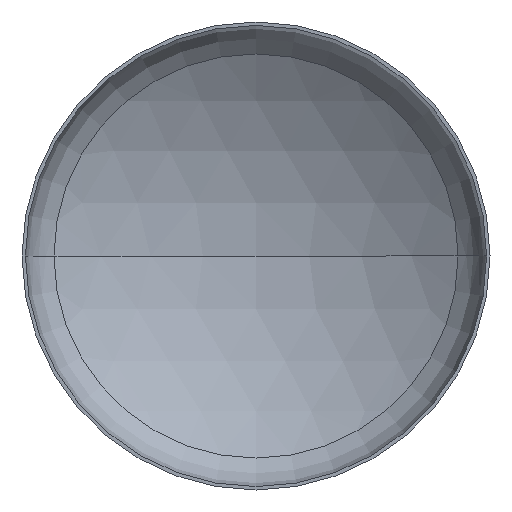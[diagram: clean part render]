
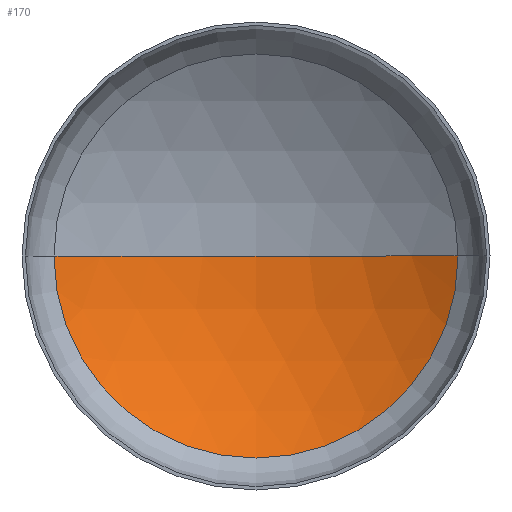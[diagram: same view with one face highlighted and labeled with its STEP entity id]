
A CAD part, front view. The second image highlights one B-rep face of the part: STEP entity #170.
In plain terms, the highlighted spherical face has radius 319.12 mm.
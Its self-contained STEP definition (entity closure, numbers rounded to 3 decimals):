
#2 = CARTESIAN_POINT ( 'NONE',  ( 0., -202.12, 0. ) ) ;
#11 = CARTESIAN_POINT ( 'NONE',  ( 0., 64.436, 0. ) ) ;
#32 = EDGE_CURVE ( 'NONE', #372, #152, #325, .T. ) ;
#36 = CARTESIAN_POINT ( 'NONE',  ( 0., 117., 0. ) ) ;
#37 = FACE_OUTER_BOUND ( 'NONE', #148, .T. ) ;
#70 = CARTESIAN_POINT ( 'NONE',  ( 0., -202.12, 0. ) ) ;
#75 = DIRECTION ( 'NONE',  ( -1., 0., 0. ) ) ;
#80 = VERTEX_POINT ( 'NONE', #99 ) ;
#96 = AXIS2_PLACEMENT_3D ( 'NONE', #11, #361, #75 ) ;
#98 = DIRECTION ( 'NONE',  ( 0., 0., 1. ) ) ;
#99 = CARTESIAN_POINT ( 'NONE',  ( 175.458, 64.436, 0. ) ) ;
#100 = EDGE_CURVE ( 'NONE', #80, #152, #336, .T. ) ;
#128 = AXIS2_PLACEMENT_3D ( 'NONE', #70, #172, #396 ) ;
#133 = DIRECTION ( 'NONE',  ( -1., 0., 0. ) ) ;
#140 = ORIENTED_EDGE ( 'NONE', *, *, #100, .T. ) ;
#143 = AXIS2_PLACEMENT_3D ( 'NONE', #2, #324, #133 ) ;
#148 = EDGE_LOOP ( 'NONE', ( #368, #140, #243 ) ) ;
#152 = VERTEX_POINT ( 'NONE', #36 ) ;
#155 = AXIS2_PLACEMENT_3D ( 'NONE', #193, #98, #352 ) ;
#170 = ADVANCED_FACE ( 'NONE', ( #37 ), #256, .F. ) ;
#172 = DIRECTION ( 'NONE',  ( 0., 0., 1. ) ) ;
#181 = CIRCLE ( 'NONE', #96, 175.458 ) ;
#193 = CARTESIAN_POINT ( 'NONE',  ( 0., -202.12, 0. ) ) ;
#243 = ORIENTED_EDGE ( 'NONE', *, *, #32, .F. ) ;
#256 = SPHERICAL_SURFACE ( 'NONE', #128, 319.12 ) ;
#323 = EDGE_CURVE ( 'NONE', #80, #372, #181, .T. ) ;
#324 = DIRECTION ( 'NONE',  ( 0., 0., -1. ) ) ;
#325 = CIRCLE ( 'NONE', #143, 319.12 ) ;
#336 = CIRCLE ( 'NONE', #155, 319.12 ) ;
#352 = DIRECTION ( 'NONE',  ( 1., 0., 0. ) ) ;
#361 = DIRECTION ( 'NONE',  ( 0., 1., 0. ) ) ;
#368 = ORIENTED_EDGE ( 'NONE', *, *, #323, .F. ) ;
#372 = VERTEX_POINT ( 'NONE', #376 ) ;
#376 = CARTESIAN_POINT ( 'NONE',  ( -175.458, 64.436, 0. ) ) ;
#396 = DIRECTION ( 'NONE',  ( -1., 0., 0. ) ) ;
